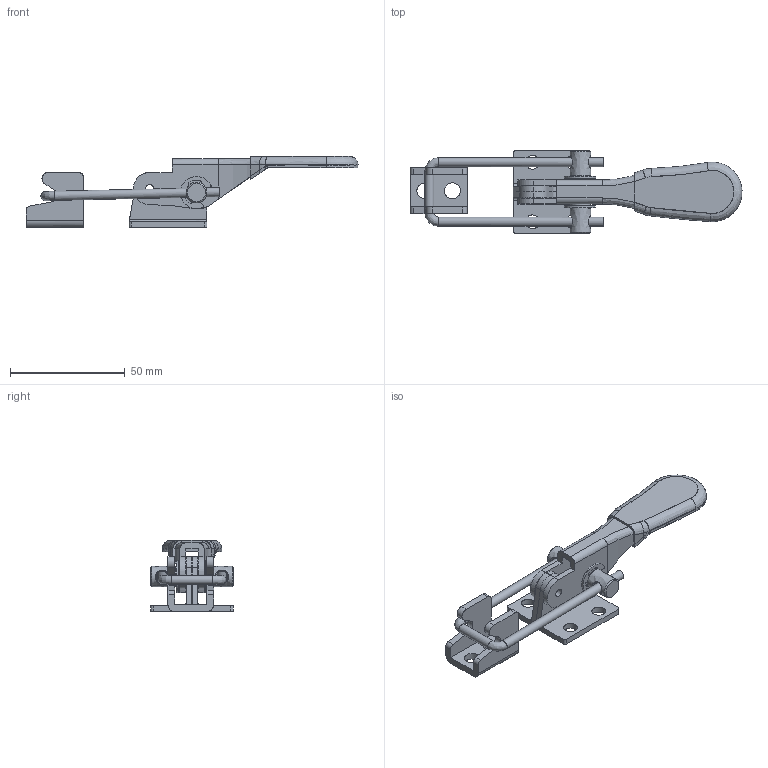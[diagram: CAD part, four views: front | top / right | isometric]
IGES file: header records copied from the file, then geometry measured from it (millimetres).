
Global section: file name: DR_C-025-41F; native system: Autodesk Inventor 2015; preprocessor: unknown; author: Administrator; date: 20180301.175311; units: millimetre
Bounding box: 144.93 x 36 x 31 mm (x, y, z)
Volume: 21914.4 mm3; surface area: 24904.6 mm2
Topology: 9 solids, 9 shells, 302 faces, 852 edges, 595 vertices
Faces by surface type: bspline 275, revolution 21, plane 6
